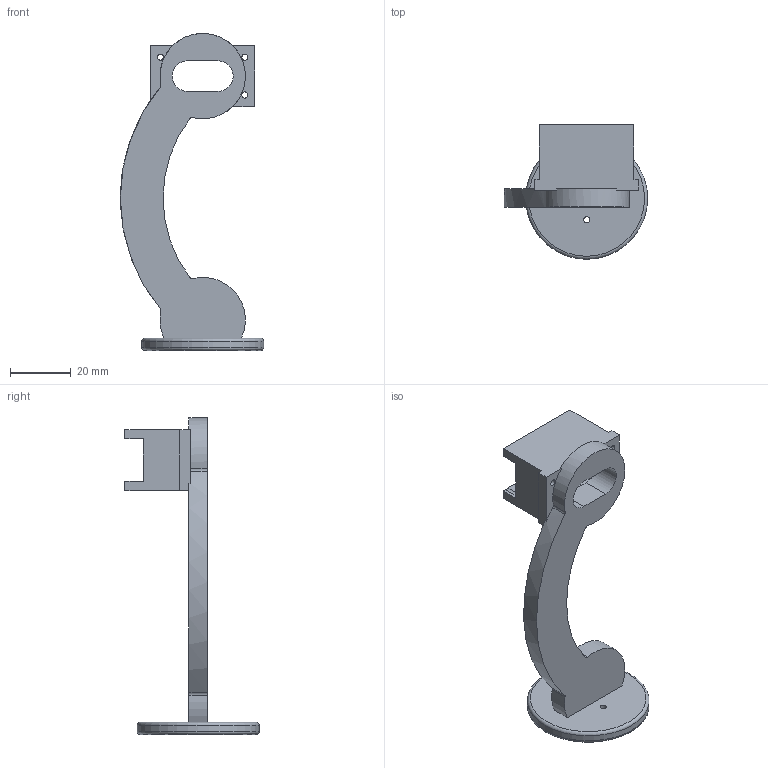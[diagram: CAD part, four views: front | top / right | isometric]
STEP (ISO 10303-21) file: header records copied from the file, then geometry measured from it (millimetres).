
FILE_DESCRIPTION(('Open CASCADE Model'),'2;1');
FILE_NAME('Open CASCADE Shape Model','2026-08-26T11:29:55',('Author'),( 'Open CASCADE'),'Open CASCADE STEP processor 7.9','Open CASCADE 7.9' ,'Unknown');
FILE_SCHEMA(('AUTOMOTIVE_DESIGN { 1 0 10303 214 1 1 1 1 }'));
Length unit declared in the file: millimetre
Products named in the file (1): Open CASCADE STEP translator 7.9 1
Bounding box: 47 x 44 x 103.98 mm (x, y, z)
Volume: 21717.7 mm3; surface area: 12460.8 mm2
Topology: 1 solids, 1 shells, 57 faces, 160 edges, 106 vertices
Faces by surface type: plane 34, cylinder 17, bspline 4, torus 2
Full cylindrical faces by diameter (mm): 2 x8, 3.2 x1, 40 x1
Entity records: 4233 total; most frequent: CARTESIAN_POINT 1168, DIRECTION 521, ORIENTED_EDGE 320, PCURVE 320, DEFINITIONAL_REPRESENTATION 320, LINE 270, VECTOR 270, EDGE_CURVE 160
